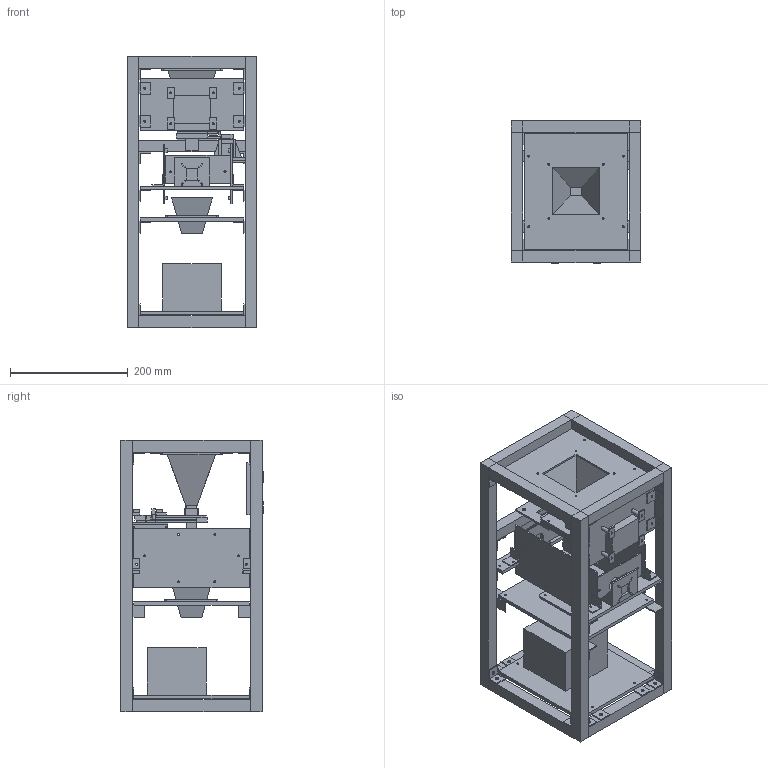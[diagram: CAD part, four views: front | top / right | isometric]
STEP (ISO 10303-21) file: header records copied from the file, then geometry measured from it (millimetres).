
FILE_DESCRIPTION(('Open CASCADE Model'),'2;1');
FILE_NAME('Open CASCADE Shape Model','2026-10-22T09:16:26',('Author'),( 'Open CASCADE'),'Open CASCADE STEP processor 7.8','Open CASCADE 7.8' ,'Unknown');
FILE_SCHEMA(('AUTOMOTIVE_DESIGN { 1 0 10303 214 1 1 1 1 }'));
Length unit declared in the file: millimetre
Products named in the file (115): H3_P4_MECHANICAL_REFERENCE_NOT_FOR_PRINT; P11; P12; P13; P21; P22; P23; P24; P25; P26; T01; T02; T03; T04; T05; T06; T07; T08; T09; T10; T11; T12; P28; W01; W02; W03; W04; W05; C01; C02; C03; C04; C04_PET; C05; C05_PET; C06; C07; P30; H36; P27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
Assembly tree (114 placements, depth 2):
  H3_P4_MECHANICAL_REFERENCE_NOT_FOR_PRINT
    P11
    P12
    P13
    P21
    P22
    P23
    P24
    P25
    P26
    T01
    T02
    T03
    T04
    T05
    T06
    T07
    T08
    T09
    T10
    T11
    T12
    P28
    W01
    W02
    W03
    W04
    W05
    C01
    C02
    C03
    C04
    C04_PET
    C05
    C05_PET
    C06
    C07
    P30
    H36
    P27
    H10
    F01
    F02
    F03
    F04
    F05
    F06
    F07
    F08
    A01
    A02
    A03
    A04
    A05
    A06
    A07
    A08
    A09
    A10
    A11
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Bounding box: 220 x 242 x 460 mm (x, y, z)
Volume: 3370551.1 mm3; surface area: 1023883.4 mm2
Topology: 114 solids, 114 shells, 1320 faces, 3301 edges, 2198 vertices
Faces by surface type: plane 996, cylinder 300, bspline 24
Full cylindrical faces by diameter (mm): 3.2 x4, 3.4 x149, 5.2 x1, 5.5 x68, 7 x4, 24 x2
Entity records: 84482 total; most frequent: CARTESIAN_POINT 15121, DIRECTION 12429, LINE 7888, VECTOR 7888, ORIENTED_EDGE 6602, PCURVE 6602, DEFINITIONAL_REPRESENTATION 6602, EDGE_CURVE 3301
